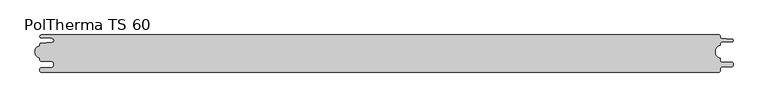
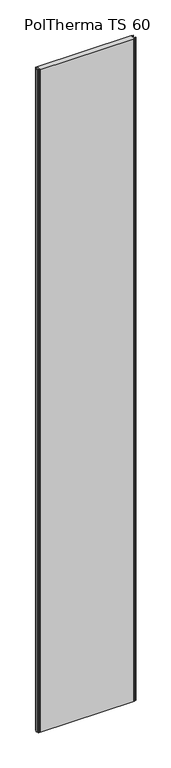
"""IFC4 building model written with IfcOpenShell, lengths in millimetres: plate geometry, Europanels_Poltherma TS_Vt : PolTherma TS 60."""

from ifc_helpers import new_model, si_unit, point, frame_2d, origin, origin_with_axes, place, context, project, spatial, polyline, circle_curve, trimmed, segment, composite_curve, outline, extrude, source, transform, mapped, element, save


def poltherma_ts_60_83b530aa(model_context):
    return source(origin(), model_context, "Body", "SweptSolid", [
        extrude(outline(composite_curve([segment(trimmed(circle_curve(frame_2d((-546.6475513, 2.7)), 10.0), [point((-548.5011047, -7.1267156))], [point((-548.5011047, 12.5267156))], False, "CARTESIAN"), True, "CONTINUOUS"), segment(polyline([(-548.5011047, 12.5267156), (-548.5011047, 14.9895357)]), True, "CONTINUOUS"), segment(trimmed(circle_curve(frame_2d((-546.7511047, 14.9895357)), 1.75), [point((-548.5011047, 14.9895357))], [point((-546.8518238, 16.7366349))], False, "CARTESIAN"), True, "CONTINUOUS"), segment(polyline([(-546.8518238, 16.7366349), (-528.9159977, 17.7706234)]), True, "CONTINUOUS"), segment(trimmed(circle_curve(frame_2d((-529.1050337, 21.0496909)), 3.2845119), [point((-528.9159977, 17.7706234))], [point((-528.927598, 24.3294066))], True, "CARTESIAN"), True, "CONTINUOUS"), segment(polyline([(-528.927598, 24.3294066), (-546.3235705, 25.2705454)]), True, "CONTINUOUS"), segment(trimmed(circle_curve(frame_2d((-546.1957299, 27.6335449)), 2.3664551), [point((-546.3235705, 25.2705454))], [point((-546.1957299, 30.0))], False, "CARTESIAN"), True, "CONTINUOUS"), segment(polyline([(-546.1957299, 30.0), (546.5011047, 30.0)]), True, "CONTINUOUS"), segment(trimmed(circle_curve(frame_2d((546.5011047, 28.0)), 2.0), [point((546.5011047, 30.0))], [point((548.5011047, 28.0))], False, "CARTESIAN"), True, "CONTINUOUS"), segment(polyline([(548.5011047, 28.0), (548.5011047, 26.2557869)]), True, "CONTINUOUS"), segment(trimmed(circle_curve(frame_2d((550.5011047, 26.2557869)), 2.0), [point((548.5011047, 26.2557869))], [point((550.3765791, 24.2596673))], True, "CARTESIAN"), True, "CONTINUOUS"), segment(polyline([(550.3765791, 24.2596673), (567.4819354, 23.19257)]), True, "CONTINUOUS"), segment(trimmed(circle_curve(frame_2d((567.3463498, 21.0191602)), 2.1776348), [point((567.4819354, 23.19257))], [point((567.4398284, 18.8435327))], False, "CARTESIAN"), True, "CONTINUOUS"), segment(polyline([(567.4398284, 18.8435327), (550.4152514, 18.1120505)]), True, "CONTINUOUS"), segment(trimmed(circle_curve(frame_2d((550.5011047, 16.113894)), 2.0), [point((550.4152514, 18.1120505))], [point((548.5011047, 16.113894))], True, "CARTESIAN"), True, "CONTINUOUS"), segment(polyline([(548.5011047, 16.113894), (548.5011047, 13.3234285)]), True, "CONTINUOUS"), segment(trimmed(circle_curve(frame_2d((551.354658, 2.7)), 11.0), [point((548.5011047, 13.3234285))], [point((548.5011047, -7.9234285))], True, "CARTESIAN"), True, "CONTINUOUS"), segment(polyline([(548.5011047, -7.9234285), (548.5011047, -10.7071263), (548.5011047, -11.9117672)]), True, "CONTINUOUS"), segment(trimmed(circle_curve(frame_2d((550.3011047, -11.9117672)), 1.8), [point((548.5011047, -11.9117672))], [point((550.2244834, -13.7101357))], True, "CARTESIAN"), True, "CONTINUOUS"), segment(polyline([(550.2244834, -13.7101357), (567.5862394, -14.4498501)]), True, "CONTINUOUS"), segment(trimmed(circle_curve(frame_2d((567.5011047, -16.4480373)), 2.0), [point((567.5862394, -14.4498501))], [point((569.5011047, -16.4480373))], False, "CARTESIAN"), True, "CONTINUOUS"), segment(polyline([(569.5011047, -16.4480373), (569.5011047, -19.1874198)]), True, "CONTINUOUS"), segment(trimmed(circle_curve(frame_2d((567.5011047, -19.1874198)), 2.0), [point((569.5011047, -19.1874198))], [point((567.624345, -21.1836192))], False, "CARTESIAN"), True, "CONTINUOUS"), segment(polyline([(567.624345, -21.1836192), (550.3778643, -22.2483736)]), True, "CONTINUOUS"), segment(trimmed(circle_curve(frame_2d((550.5011047, -24.244573)), 2.0), [point((550.3778643, -22.2483736))], [point((548.5011047, -24.244573))], True, "CARTESIAN"), True, "CONTINUOUS"), segment(polyline([(548.5011047, -24.244573), (548.5011047, -28.0)]), True, "CONTINUOUS"), segment(trimmed(circle_curve(frame_2d((546.5011047, -28.0)), 2.0), [point((548.5011047, -28.0))], [point((546.5011047, -30.0))], False, "CARTESIAN"), True, "CONTINUOUS"), segment(polyline([(546.5011047, -30.0), (-546.5011047, -30.0)]), True, "CONTINUOUS"), segment(trimmed(circle_curve(frame_2d((-546.5011047, -28.0)), 2.0), [point((-546.5011047, -30.0))], [point((-548.5011047, -28.0))], False, "CARTESIAN"), True, "CONTINUOUS"), segment(polyline([(-548.5011047, -28.0), (-548.5011047, -25.2751521)]), True, "CONTINUOUS"), segment(trimmed(circle_curve(frame_2d((-546.5011047, -25.2751521)), 2.0), [point((-548.5011047, -25.2751521))], [point((-546.6091486, -23.2780726))], False, "CARTESIAN"), True, "CONTINUOUS"), segment(polyline([(-546.6091486, -23.2780726), (-528.8358621, -22.3165207)]), True, "CONTINUOUS"), segment(trimmed(circle_curve(frame_2d((-528.9979279, -19.3209015)), 3.0), [point((-528.8358621, -22.3165207))], [point((-525.9979279, -19.3209015))], True, "CARTESIAN"), True, "CONTINUOUS"), segment(polyline([(-525.9979279, -19.3209015), (-525.9979279, -16.3793238)]), True, "CONTINUOUS"), segment(trimmed(circle_curve(frame_2d((-528.9979279, -16.3793238)), 3.0), [point((-525.9979279, -16.3793238))], [point((-528.8252666, -13.3842966))], True, "CARTESIAN"), True, "CONTINUOUS"), segment(polyline([(-528.8252666, -13.3842966), (-546.8047015, -12.3477941)]), True, "CONTINUOUS"), segment(trimmed(circle_curve(frame_2d((-546.7011047, -10.5507777)), 1.8), [point((-546.8047015, -12.3477941))], [point((-548.5011047, -10.5507777))], False, "CARTESIAN"), True, "CONTINUOUS"), segment(polyline([(-548.5011047, -10.5507777), (-548.5011047, -7.1267156)]), True, "CONTINUOUS")], self_intersect=False)), origin_with_axes(), (0.0, 0.0, 1.0), 8000.0),
    ])


if __name__ == "__main__":
    model = new_model("IFC4")
    model_context = context("Model", 3, world=origin())
    ifc_project = project(units=[si_unit("LENGTHUNIT", "METRE", prefix="MILLI")], contexts=[model_context])
    site = spatial("IfcSite", under=ifc_project)
    building = spatial("IfcBuilding", under=site)
    placement = place(None, origin())
    poltherma_ts_60_shape = poltherma_ts_60_83b530aa(model_context)
    element("IfcPlate", 1, ObjectType="Europanels_Poltherma TS_Vt : PolTherma TS 60", at=placement, inside=building, context=model_context, shape_type="MappedRepresentation", body=[
        mapped(poltherma_ts_60_shape, transform((0.0, 0.0, 0.0), x_axis=(1.0, 0.0, 0.0), y_axis=(0.0, 1.0, 0.0), z_axis=(0.0, 0.0, 1.0))),
    ])
    save(model, "model.ifc")
